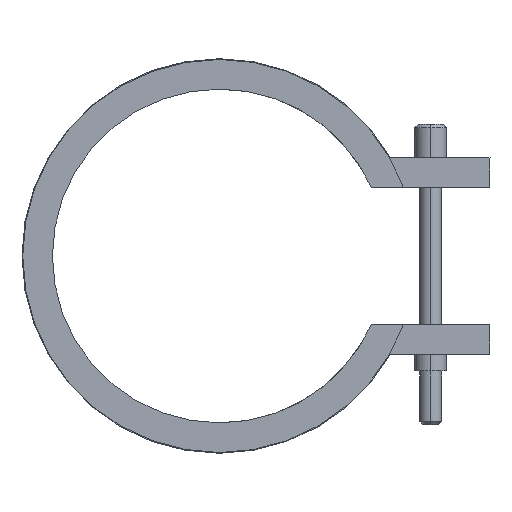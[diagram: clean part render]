
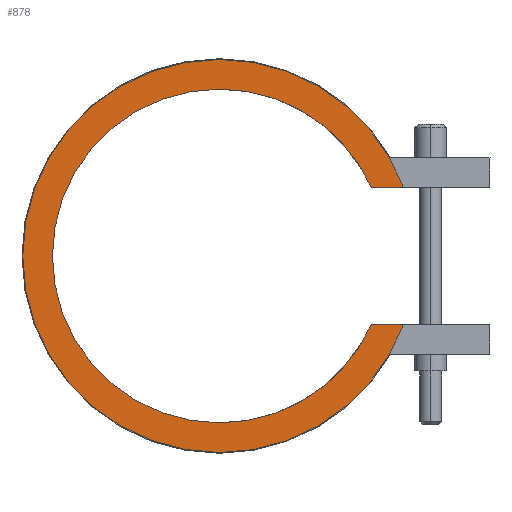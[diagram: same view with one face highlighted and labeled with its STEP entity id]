
A CAD part, left-side view. The second image highlights one B-rep face of the part: STEP entity #878.
In plain terms, the highlighted planar face has unit normal (-1, 0, 0).
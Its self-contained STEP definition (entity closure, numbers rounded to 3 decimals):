
#416=CARTESIAN_POINT('Vertex',(-20.,-20.511,-9.25)) ;
#419=CARTESIAN_POINT('Line Origine',(-20.,-22.672,-9.25)) ;
#423=CARTESIAN_POINT('Vertex',(-20.,-24.833,-9.25)) ;
#469=CARTESIAN_POINT('Vertex',(-20.,0.,-26.5)) ;
#472=CARTESIAN_POINT('Axis2P3D Location',(-20.,0.,0.)) ;
#493=CARTESIAN_POINT('Vertex',(-20.,0.,26.5)) ;
#496=CARTESIAN_POINT('Axis2P3D Location',(-20.,0.,0.)) ;
#508=CARTESIAN_POINT('Axis2P3D Location',(-20.,0.,0.)) ;
#512=CARTESIAN_POINT('Vertex',(-20.,-24.833,9.25)) ;
#532=CARTESIAN_POINT('Line Origine',(-20.,-22.672,9.25)) ;
#536=CARTESIAN_POINT('Vertex',(-20.,-20.511,9.25)) ;
#824=CARTESIAN_POINT('Axis2P3D Location',(-20.,0.,0.)) ;
#828=CARTESIAN_POINT('Vertex',(-20.,0.,-22.5)) ;
#851=CARTESIAN_POINT('Axis2P3D Location',(-20.,0.,0.)) ;
#856=CARTESIAN_POINT('Axis2P3D Location',(-20.,0.,0.)) ;
#860=CARTESIAN_POINT('Vertex',(-20.,0.,22.5)) ;
#863=CARTESIAN_POINT('Axis2P3D Location',(-20.,0.,0.)) ;
#420=DIRECTION('Vector Direction',(0.,1.,0.)) ;
#473=DIRECTION('Axis2P3D Direction',(1.,0.,-0.)) ;
#497=DIRECTION('Axis2P3D Direction',(1.,0.,-0.)) ;
#509=DIRECTION('Axis2P3D Direction',(1.,0.,-0.)) ;
#533=DIRECTION('Vector Direction',(0.,-1.,0.)) ;
#825=DIRECTION('Axis2P3D Direction',(1.,0.,-0.)) ;
#852=DIRECTION('Axis2P3D Direction',(1.,0.,0.)) ;
#853=DIRECTION('Axis2P3D XDirection',(0.,0.,-1.)) ;
#857=DIRECTION('Axis2P3D Direction',(1.,0.,0.)) ;
#864=DIRECTION('Axis2P3D Direction',(1.,0.,0.)) ;
#474=AXIS2_PLACEMENT_3D('Circle Axis2P3D',#472,#473,$) ;
#498=AXIS2_PLACEMENT_3D('Circle Axis2P3D',#496,#497,$) ;
#510=AXIS2_PLACEMENT_3D('Circle Axis2P3D',#508,#509,$) ;
#826=AXIS2_PLACEMENT_3D('Circle Axis2P3D',#824,#825,$) ;
#854=AXIS2_PLACEMENT_3D('Plane Axis2P3D',#851,#852,#853) ;
#858=AXIS2_PLACEMENT_3D('Circle Axis2P3D',#856,#857,$) ;
#865=AXIS2_PLACEMENT_3D('Circle Axis2P3D',#863,#864,$) ;
#869=ORIENTED_EDGE('',*,*,#425,.T.) ;
#870=ORIENTED_EDGE('',*,*,#830,.T.) ;
#871=ORIENTED_EDGE('',*,*,#862,.T.) ;
#872=ORIENTED_EDGE('',*,*,#867,.T.) ;
#873=ORIENTED_EDGE('',*,*,#538,.T.) ;
#874=ORIENTED_EDGE('',*,*,#514,.F.) ;
#875=ORIENTED_EDGE('',*,*,#500,.F.) ;
#876=ORIENTED_EDGE('',*,*,#476,.F.) ;
#421=VECTOR('Line Direction',#420,1.) ;
#534=VECTOR('Line Direction',#533,1.) ;
#878=ADVANCED_FACE('14045040',(#877),#855,.F.) ;
#475=CIRCLE('generated circle',#474,26.5) ;
#499=CIRCLE('generated circle',#498,26.5) ;
#511=CIRCLE('generated circle',#510,26.5) ;
#827=CIRCLE('generated circle',#826,22.5) ;
#859=CIRCLE('generated circle',#858,22.5) ;
#866=CIRCLE('generated circle',#865,22.5) ;
#425=EDGE_CURVE('',#424,#417,#422,.T.) ;
#476=EDGE_CURVE('',#424,#470,#475,.T.) ;
#500=EDGE_CURVE('',#470,#494,#499,.T.) ;
#514=EDGE_CURVE('',#494,#513,#511,.T.) ;
#538=EDGE_CURVE('',#537,#513,#535,.T.) ;
#830=EDGE_CURVE('',#417,#829,#827,.T.) ;
#862=EDGE_CURVE('',#829,#861,#859,.T.) ;
#867=EDGE_CURVE('',#861,#537,#866,.T.) ;
#868=EDGE_LOOP('',(#869,#870,#871,#872,#873,#874,#875,#876)) ;
#877=FACE_OUTER_BOUND('',#868,.T.) ;
#422=LINE('Line',#419,#421) ;
#535=LINE('Line',#532,#534) ;
#855=PLANE('Plane',#854) ;
#417=VERTEX_POINT('',#416) ;
#424=VERTEX_POINT('',#423) ;
#470=VERTEX_POINT('',#469) ;
#494=VERTEX_POINT('',#493) ;
#513=VERTEX_POINT('',#512) ;
#537=VERTEX_POINT('',#536) ;
#829=VERTEX_POINT('',#828) ;
#861=VERTEX_POINT('',#860) ;
